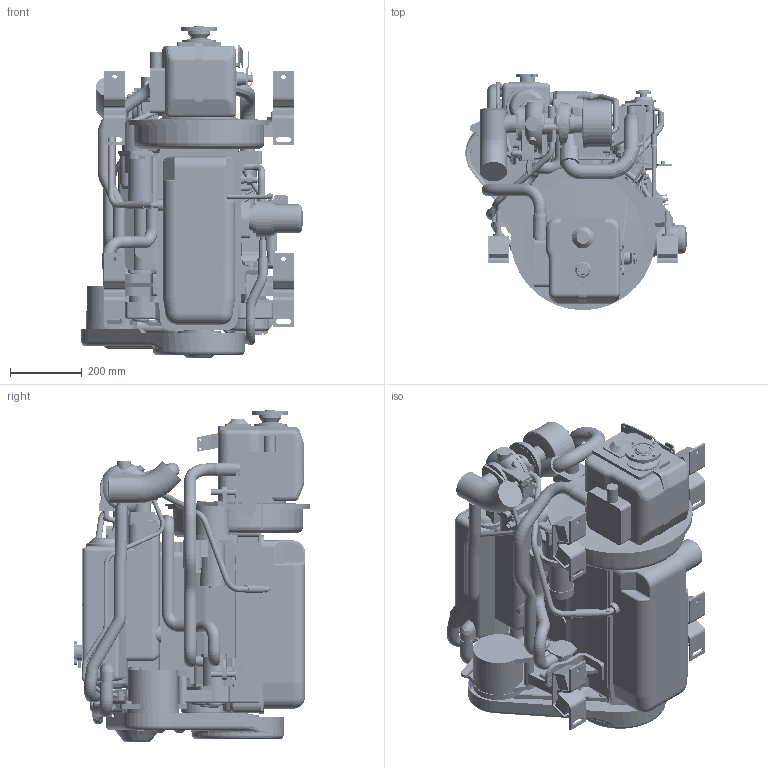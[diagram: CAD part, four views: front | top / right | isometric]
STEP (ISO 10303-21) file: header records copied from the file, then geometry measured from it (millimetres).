
FILE_DESCRIPTION(('CoCreate Modeling STEP Export'),'2;1');
FILE_NAME('4JH4-TE_ZF30M.stp','2013-04-12T 9:03:20',(''),(''),'CoCreate Modeling STEP processor for AP214 (Solid Model)','CoCreate Modeling 16.50A 01-Dec-2009 (C) Parametric Technology GmbH','');
FILE_SCHEMA(('AUTOMOTIVE_DESIGN { 1 0 10303 214 1 1 1 1 }'));
Length unit declared in the file: millimetre
Products named in the file (45): 4JH4E_010; 4JH4E_018; 4JH4E_019; 4JH4E_030; 4JH4E_029; 4JH4E_033; 4JH4E_023; 4JH4E_031; 4JH4E_003; 4JH4E_002; 4JH4E_020; 4JH4E_014; 4JH4E_011; 4JH4E_005; 4JH4E_013; 4JH4E_007; 4JH4E_015; 4JH4E_017; 4JH4E_024; 4JH4E_021; 4JH4E_026; 4JH4E_006; 4JH4E_032; 4JH4E_028; 4JH4E_027; 4JH4E_016; 4JH4E_008; 4JH4E_004; 4JH4E_022; 4JH4E_025; 4JH4E_009; 4JH4E_012; 4JH4E_001; Base; ZF30M-JH4_001; ZF30M_Gearbox-JH4; C.O.G._P1; C.O.G._P2; C.O.G._P3; C.O.G._P4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
Assembly tree (44 placements, depth 4):
  4JH4-TE_ZF30M
    4JH4-TE_Engine_Gearbox
      Center_of_gravity
        C.O.G._P5
        C.O.G._P6
        C.O.G._P4
        C.O.G._P3
        C.O.G._P2
        C.O.G._P1
      ZF30M_Gearbox-JH4
        ZF30M-JH4_001
      Base
        4JH4E_001
        4JH4E_012
        4JH4E_009
        4JH4E_025
        4JH4E_022
        4JH4E_004
        4JH4E_008
        4JH4E_016
        4JH4E_027
        4JH4E_028
        4JH4E_032
        4JH4E_006
        4JH4E_026
        4JH4E_021
        4JH4E_024
        4JH4E_017
        4JH4E_015
        4JH4E_007
        4JH4E_013
        4JH4E_005
        4JH4E_011
        4JH4E_014
        4JH4E_020
        4JH4E_002
        4JH4E_003
        4JH4E_031
        4JH4E_023
        4JH4E_033
        4JH4E_029
        4JH4E_030
        4JH4E_019
        4JH4E_018
        4JH4E_010
Bounding box: 616.1 x 658.3 x 923.44 mm (x, y, z)
Volume: 94563243.2 mm3; surface area: 6011671.2 mm2
Topology: 40 solids, 40 shells, 4803 faces, 12835 edges, 8258 vertices
Faces by surface type: cylinder 2078, plane 1917, torus 504, cone 178, bspline 72, sphere 51, extrusion 3
Entity records: 148961 total; most frequent: CARTESIAN_POINT 36199, ORIENTED_EDGE 25562, DIRECTION 21308, EDGE_CURVE 12781, VERTEX_POINT 8258, AXIS2_PLACEMENT_3D 7496, VECTOR 6316, LINE 6313
